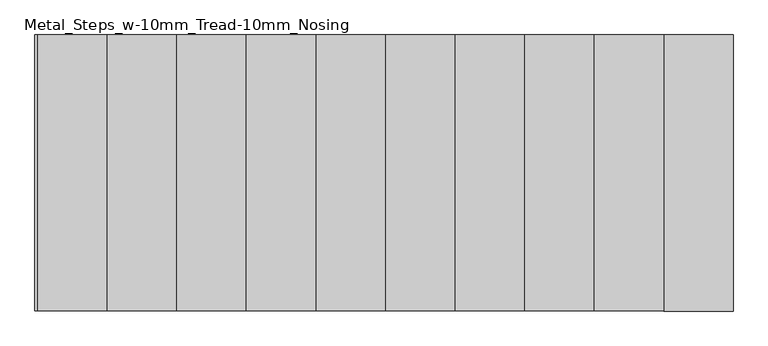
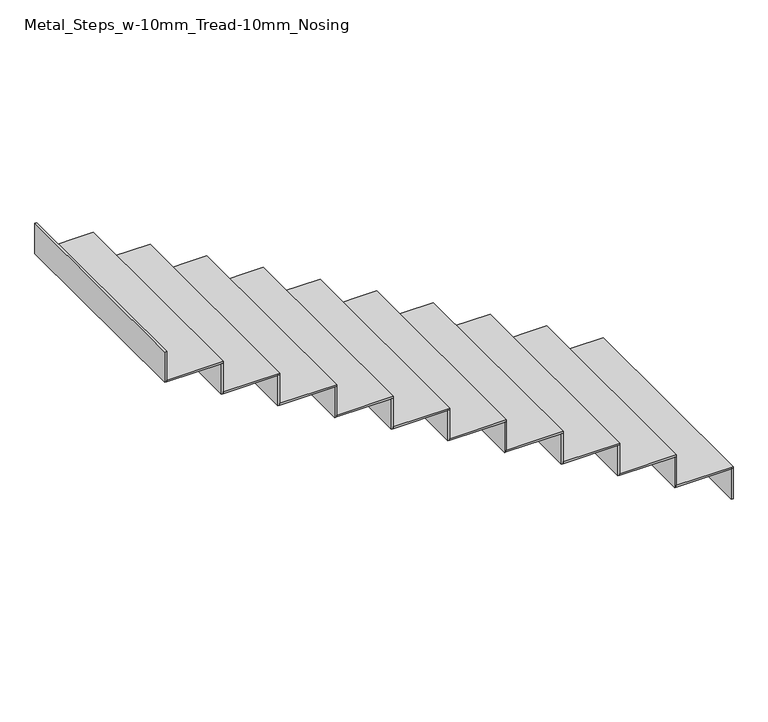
"""IFC4 building model written with IfcOpenShell, lengths in millimetres: stair flight geometry, Metal_Steps_w-10mm_Tread-10mm_Nosing."""

from ifc_helpers import new_model, si_unit, frame, origin, place, context, project, spatial, polyline, outline, extrude, source, transform, mapped, element, save


def metal_steps_w_10mm_tread_10mm_nosing_2ec39de0(model_context):
    return source(origin(), model_context, "Body", "SweptSolid", [
        extrude(outline(polyline([(2188.5041438, 12254.6238126), (2198.5041438, 12254.6238126), (2198.5041438, 11064.6238126), (2188.5041438, 11064.6238126), (2188.5041438, 12254.6238126)])), frame((0.0, 0.0, 13125.0), z_axis=(0.0, 0.0, 1.0), x_axis=(1.0, 0.0, 0.0)), (0.0, 0.0, 1.0), 170.4545455),
        extrude(outline(polyline([(1898.5041438, 11064.6238126), (1898.5041438, 12254.6238126), (2198.5041438, 12254.6238126), (2198.5041438, 11064.6238126), (1898.5041438, 11064.6238126)])), frame((0.0, 0.0, 13295.4545455), z_axis=(0.0, 0.0, 1.0), x_axis=(1.0, 0.0, 0.0)), (0.0, 0.0, 1.0), 10.0),
        extrude(outline(polyline([(1888.5041438, 12254.6238126), (1898.5041438, 12254.6238126), (1898.5041438, 11064.6238126), (1888.5041438, 11064.6238126), (1888.5041438, 12254.6238126)])), frame((0.0, 0.0, 13295.4545455), z_axis=(0.0, 0.0, 1.0), x_axis=(1.0, 0.0, 0.0)), (0.0, 0.0, 1.0), 170.4545455),
        extrude(outline(polyline([(1598.5041438, 11064.6238126), (1598.5041438, 12254.6238126), (1898.5041438, 12254.6238126), (1898.5041438, 11064.6238126), (1598.5041438, 11064.6238126)])), frame((0.0, 0.0, 13465.9090909), z_axis=(0.0, 0.0, 1.0), x_axis=(1.0, 0.0, 0.0)), (0.0, 0.0, 1.0), 10.0),
        extrude(outline(polyline([(1588.5041438, 12254.6238126), (1598.5041438, 12254.6238126), (1598.5041438, 11064.6238126), (1588.5041438, 11064.6238126), (1588.5041438, 12254.6238126)])), frame((0.0, 0.0, 13465.9090909), z_axis=(0.0, 0.0, 1.0), x_axis=(1.0, 0.0, 0.0)), (0.0, 0.0, 1.0), 170.4545455),
        extrude(outline(polyline([(1298.5041438, 11064.6238126), (1298.5041438, 12254.6238126), (1598.5041438, 12254.6238126), (1598.5041438, 11064.6238126), (1298.5041438, 11064.6238126)])), frame((0.0, 0.0, 13636.3636364), z_axis=(0.0, 0.0, 1.0), x_axis=(1.0, 0.0, 0.0)), (0.0, 0.0, 1.0), 10.0),
        extrude(outline(polyline([(1288.5041438, 12254.6238126), (1298.5041438, 12254.6238126), (1298.5041438, 11064.6238126), (1288.5041438, 11064.6238126), (1288.5041438, 12254.6238126)])), frame((0.0, 0.0, 13636.3636364), z_axis=(0.0, 0.0, 1.0), x_axis=(1.0, 0.0, 0.0)), (0.0, 0.0, 1.0), 170.4545455),
        extrude(outline(polyline([(998.5041438, 11064.6238126), (998.5041438, 12254.6238126), (1298.5041438, 12254.6238126), (1298.5041438, 11064.6238126), (998.5041438, 11064.6238126)])), frame((0.0, 0.0, 13806.8181818), z_axis=(0.0, 0.0, 1.0), x_axis=(1.0, 0.0, 0.0)), (0.0, 0.0, 1.0), 10.0),
        extrude(outline(polyline([(988.5041438, 12254.6238126), (998.5041438, 12254.6238126), (998.5041438, 11064.6238126), (988.5041438, 11064.6238126), (988.5041438, 12254.6238126)])), frame((0.0, 0.0, 13806.8181818), z_axis=(0.0, 0.0, 1.0), x_axis=(1.0, 0.0, 0.0)), (0.0, 0.0, 1.0), 170.4545455),
        extrude(outline(polyline([(698.5041438, 11064.6238126), (698.5041438, 12254.6238126), (998.5041438, 12254.6238126), (998.5041438, 11064.6238126), (698.5041438, 11064.6238126)])), frame((0.0, 0.0, 13977.2727273), z_axis=(0.0, 0.0, 1.0), x_axis=(1.0, 0.0, 0.0)), (0.0, 0.0, 1.0), 10.0),
        extrude(outline(polyline([(688.5041438, 12254.6238126), (698.5041438, 12254.6238126), (698.5041438, 11064.6238126), (688.5041438, 11064.6238126), (688.5041438, 12254.6238126)])), frame((0.0, 0.0, 13977.2727273), z_axis=(0.0, 0.0, 1.0), x_axis=(1.0, 0.0, 0.0)), (0.0, 0.0, 1.0), 170.4545455),
        extrude(outline(polyline([(398.5041438, 11064.6238126), (398.5041438, 12254.6238126), (698.5041438, 12254.6238126), (698.5041438, 11064.6238126), (398.5041438, 11064.6238126)])), frame((0.0, 0.0, 14147.7272727), z_axis=(0.0, 0.0, 1.0), x_axis=(1.0, 0.0, 0.0)), (0.0, 0.0, 1.0), 10.0),
        extrude(outline(polyline([(388.5041438, 12254.6238126), (398.5041438, 12254.6238126), (398.5041438, 11064.6238126), (388.5041438, 11064.6238126), (388.5041438, 12254.6238126)])), frame((0.0, 0.0, 14147.7272727), z_axis=(0.0, 0.0, 1.0), x_axis=(1.0, 0.0, 0.0)), (0.0, 0.0, 1.0), 170.4545455),
        extrude(outline(polyline([(98.5041438, 11064.6238126), (98.5041438, 12254.6238126), (398.5041438, 12254.6238126), (398.5041438, 11064.6238126), (98.5041438, 11064.6238126)])), frame((0.0, 0.0, 14318.1818182), z_axis=(0.0, 0.0, 1.0), x_axis=(1.0, 0.0, 0.0)), (0.0, 0.0, 1.0), 10.0),
        extrude(outline(polyline([(88.5041438, 12254.6238126), (98.5041438, 12254.6238126), (98.5041438, 11064.6238126), (88.5041438, 11064.6238126), (88.5041438, 12254.6238126)])), frame((0.0, 0.0, 14318.1818182), z_axis=(0.0, 0.0, 1.0), x_axis=(1.0, 0.0, 0.0)), (0.0, 0.0, 1.0), 170.4545455),
        extrude(outline(polyline([(-201.4958562, 11064.6238126), (-201.4958562, 12254.6238126), (98.5041438, 12254.6238126), (98.5041438, 11064.6238126), (-201.4958562, 11064.6238126)])), frame((0.0, 0.0, 14488.6363636), z_axis=(0.0, 0.0, 1.0), x_axis=(1.0, 0.0, 0.0)), (0.0, 0.0, 1.0), 10.0),
        extrude(outline(polyline([(-211.4958562, 12254.6238126), (-201.4958562, 12254.6238126), (-201.4958562, 11064.6238126), (-211.4958562, 11064.6238126), (-211.4958562, 12254.6238126)])), frame((0.0, 0.0, 14488.6363636), z_axis=(0.0, 0.0, 1.0), x_axis=(1.0, 0.0, 0.0)), (0.0, 0.0, 1.0), 170.4545455),
        extrude(outline(polyline([(-501.4958562, 11064.6238126), (-501.4958562, 12254.6238126), (-201.4958562, 12254.6238126), (-201.4958562, 11064.6238126), (-501.4958562, 11064.6238126)])), frame((0.0, 0.0, 14659.0909091), z_axis=(0.0, 0.0, 1.0), x_axis=(1.0, 0.0, 0.0)), (0.0, 0.0, 1.0), 10.0),
        extrude(outline(polyline([(-511.4958562, 12254.6238126), (-501.4958562, 12254.6238126), (-501.4958562, 11064.6238126), (-511.4958562, 11064.6238126), (-511.4958562, 12254.6238126)])), frame((0.0, 0.0, 14659.0909091), z_axis=(0.0, 0.0, 1.0), x_axis=(1.0, 0.0, 0.0)), (0.0, 0.0, 1.0), 170.4545455),
        extrude(outline(polyline([(-811.4958562, 12254.6238126), (-801.4958562, 12254.6238126), (-801.4958562, 11064.6238126), (-811.4958562, 11064.6238126), (-811.4958562, 12254.6238126)])), frame((0.0, 0.0, 14829.5454545), z_axis=(0.0, 0.0, 1.0), x_axis=(1.0, 0.0, 0.0)), (0.0, 0.0, 1.0), 170.4545455),
        extrude(outline(polyline([(-801.4958562, 11064.6238126), (-801.4958562, 12254.6238126), (-501.4958562, 12254.6238126), (-501.4958562, 11064.6238126), (-801.4958562, 11064.6238126)])), frame((0.0, 0.0, 14829.5454545), z_axis=(0.0, 0.0, 1.0), x_axis=(1.0, 0.0, 0.0)), (0.0, 0.0, 1.0), 10.0),
    ])


if __name__ == "__main__":
    model = new_model("IFC4")
    model_context = context("Model", 3, world=origin())
    ifc_project = project(units=[si_unit("LENGTHUNIT", "METRE", prefix="MILLI")], contexts=[model_context])
    site = spatial("IfcSite", under=ifc_project)
    building = spatial("IfcBuilding", under=site)
    placement = place(None, origin())
    metal_steps_w_10mm_tread_10mm_nosing_shape = metal_steps_w_10mm_tread_10mm_nosing_2ec39de0(model_context)
    element("IfcStairFlight", 1, ObjectType="Metal_Steps_w-10mm_Tread-10mm_Nosing", at=placement, inside=building, context=model_context, shape_type="MappedRepresentation", body=[
        mapped(metal_steps_w_10mm_tread_10mm_nosing_shape, transform((0.0, 0.0, 0.0), x_axis=(1.0, 0.0, 0.0), y_axis=(0.0, 1.0, 0.0), z_axis=(0.0, 0.0, 1.0))),
    ])
    save(model, "model.ifc")
